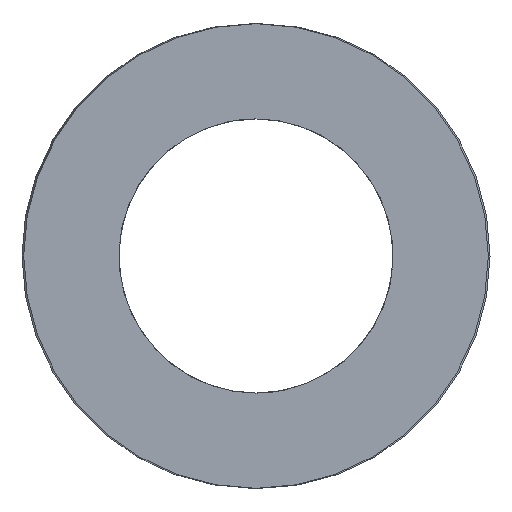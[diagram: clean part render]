
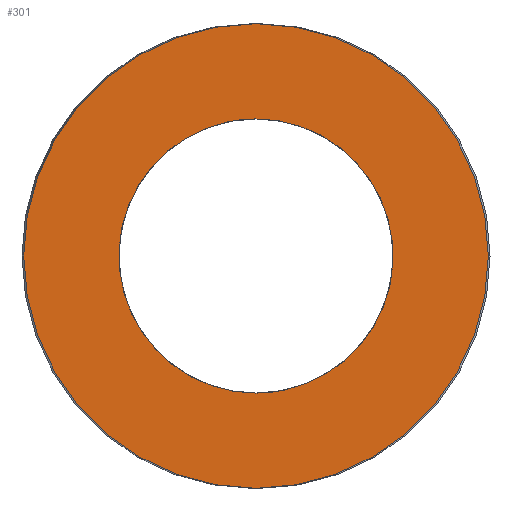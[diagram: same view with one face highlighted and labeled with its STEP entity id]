
A CAD part, left-side view. The second image highlights one B-rep face of the part: STEP entity #301.
In plain terms, the highlighted planar face has unit normal (-1, 0, 0).
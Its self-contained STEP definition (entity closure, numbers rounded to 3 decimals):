
#63=CARTESIAN_POINT('Vertex',(0.,6.1,0.)) ;
#77=CARTESIAN_POINT('Vertex',(0.,-6.1,0.)) ;
#80=CARTESIAN_POINT('Axis2P3D Location',(0.,0.,0.)) ;
#97=CARTESIAN_POINT('Axis2P3D Location',(0.,0.,0.)) ;
#232=CARTESIAN_POINT('Axis2P3D Location',(0.,3.05,0.)) ;
#242=CARTESIAN_POINT('Control Point',(0.,0.,-3.6)) ;
#243=CARTESIAN_POINT('Control Point',(0.,0.372,-3.6)) ;
#244=CARTESIAN_POINT('Control Point',(0.,0.744,-3.552)) ;
#245=CARTESIAN_POINT('Control Point',(0.,1.107,-3.456)) ;
#246=CARTESIAN_POINT('Control Point',(0.,1.801,-3.172)) ;
#247=CARTESIAN_POINT('Control Point',(0.,2.4,-2.722)) ;
#248=CARTESIAN_POINT('Control Point',(0.,2.669,-2.459)) ;
#249=CARTESIAN_POINT('Control Point',(0.,3.133,-1.869)) ;
#250=CARTESIAN_POINT('Control Point',(0.,3.431,-1.182)) ;
#251=CARTESIAN_POINT('Control Point',(0.,3.535,-0.82)) ;
#252=CARTESIAN_POINT('Control Point',(0.,3.647,-0.079)) ;
#253=CARTESIAN_POINT('Control Point',(0.,3.567,0.667)) ;
#254=CARTESIAN_POINT('Control Point',(0.,3.479,1.032)) ;
#255=CARTESIAN_POINT('Control Point',(0.,3.21,1.732)) ;
#256=CARTESIAN_POINT('Control Point',(0.,2.773,2.341)) ;
#257=CARTESIAN_POINT('Control Point',(0.,2.516,2.615)) ;
#258=CARTESIAN_POINT('Control Point',(0.,1.937,3.092)) ;
#259=CARTESIAN_POINT('Control Point',(0.,1.255,3.405)) ;
#260=CARTESIAN_POINT('Control Point',(0.,0.896,3.517)) ;
#261=CARTESIAN_POINT('Control Point',(0.,0.496,3.586)) ;
#262=CARTESIAN_POINT('Control Point',(0.,0.093,3.599)) ;
#263=CARTESIAN_POINT('Control Point',(0.,0.062,3.6)) ;
#264=CARTESIAN_POINT('Control Point',(0.,0.031,3.6)) ;
#265=CARTESIAN_POINT('Control Point',(0.,0.,3.6)) ;
#266=CARTESIAN_POINT('Vertex',(0.,0.,-3.6)) ;
#268=CARTESIAN_POINT('Vertex',(0.,0.,3.6)) ;
#272=CARTESIAN_POINT('Control Point',(0.,0.,3.6)) ;
#273=CARTESIAN_POINT('Control Point',(0.,-0.372,3.6)) ;
#274=CARTESIAN_POINT('Control Point',(0.,-0.744,3.552)) ;
#275=CARTESIAN_POINT('Control Point',(0.,-1.107,3.456)) ;
#276=CARTESIAN_POINT('Control Point',(0.,-1.801,3.172)) ;
#277=CARTESIAN_POINT('Control Point',(0.,-2.4,2.722)) ;
#278=CARTESIAN_POINT('Control Point',(0.,-2.669,2.459)) ;
#279=CARTESIAN_POINT('Control Point',(0.,-3.133,1.869)) ;
#280=CARTESIAN_POINT('Control Point',(0.,-3.431,1.182)) ;
#281=CARTESIAN_POINT('Control Point',(0.,-3.535,0.82)) ;
#282=CARTESIAN_POINT('Control Point',(0.,-3.647,0.079)) ;
#283=CARTESIAN_POINT('Control Point',(0.,-3.567,-0.667)) ;
#284=CARTESIAN_POINT('Control Point',(0.,-3.479,-1.032)) ;
#285=CARTESIAN_POINT('Control Point',(0.,-3.21,-1.732)) ;
#286=CARTESIAN_POINT('Control Point',(0.,-2.773,-2.341)) ;
#287=CARTESIAN_POINT('Control Point',(0.,-2.516,-2.615)) ;
#288=CARTESIAN_POINT('Control Point',(0.,-1.937,-3.092)) ;
#289=CARTESIAN_POINT('Control Point',(0.,-1.255,-3.405)) ;
#290=CARTESIAN_POINT('Control Point',(0.,-0.896,-3.517)) ;
#291=CARTESIAN_POINT('Control Point',(0.,-0.496,-3.586)) ;
#292=CARTESIAN_POINT('Control Point',(0.,-0.093,-3.599)) ;
#293=CARTESIAN_POINT('Control Point',(0.,-0.062,-3.6)) ;
#294=CARTESIAN_POINT('Control Point',(0.,-0.031,-3.6)) ;
#295=CARTESIAN_POINT('Control Point',(0.,0.,-3.6)) ;
#81=DIRECTION('Axis2P3D Direction',(1.,-0.,0.)) ;
#98=DIRECTION('Axis2P3D Direction',(1.,-0.,0.)) ;
#233=DIRECTION('Axis2P3D Direction',(-1.,0.,0.)) ;
#234=DIRECTION('Axis2P3D XDirection',(0.,1.,0.)) ;
#82=AXIS2_PLACEMENT_3D('Circle Axis2P3D',#80,#81,$) ;
#99=AXIS2_PLACEMENT_3D('Circle Axis2P3D',#97,#98,$) ;
#235=AXIS2_PLACEMENT_3D('Plane Axis2P3D',#232,#233,#234) ;
#238=ORIENTED_EDGE('',*,*,#84,.T.) ;
#239=ORIENTED_EDGE('',*,*,#101,.T.) ;
#298=ORIENTED_EDGE('',*,*,#270,.T.) ;
#299=ORIENTED_EDGE('',*,*,#296,.T.) ;
#300=FACE_BOUND('',#297,.T.) ;
#301=ADVANCED_FACE('392-B13-032',(#240,#300),#236,.T.) ;
#241=B_SPLINE_CURVE_WITH_KNOTS('',5,(#242,#243,#244,#245,#246,#247,#248,#249,#250,#251,#252,#253,#254,#255,#256,#257,#258,#259,#260,#261,#262,#263,#264,#265),.UNSPECIFIED.,.F.,.U.,(6,3,3,3,3,3,3,6),(0.,2.629,5.258,7.887,10.516,13.145,15.774,15.994),.UNSPECIFIED.) ;
#271=B_SPLINE_CURVE_WITH_KNOTS('',5,(#272,#273,#274,#275,#276,#277,#278,#279,#280,#281,#282,#283,#284,#285,#286,#287,#288,#289,#290,#291,#292,#293,#294,#295),.UNSPECIFIED.,.F.,.U.,(6,3,3,3,3,3,3,6),(0.,2.629,5.258,7.887,10.516,13.145,15.774,15.994),.UNSPECIFIED.) ;
#83=CIRCLE('generated circle',#82,6.1) ;
#100=CIRCLE('generated circle',#99,6.1) ;
#84=EDGE_CURVE('',#64,#78,#83,.F.) ;
#101=EDGE_CURVE('',#78,#64,#100,.F.) ;
#270=EDGE_CURVE('',#267,#269,#241,.T.) ;
#296=EDGE_CURVE('',#269,#267,#271,.T.) ;
#237=EDGE_LOOP('',(#238,#239)) ;
#297=EDGE_LOOP('',(#298,#299)) ;
#240=FACE_OUTER_BOUND('',#237,.T.) ;
#236=PLANE('Plane',#235) ;
#64=VERTEX_POINT('',#63) ;
#78=VERTEX_POINT('',#77) ;
#267=VERTEX_POINT('',#266) ;
#269=VERTEX_POINT('',#268) ;
